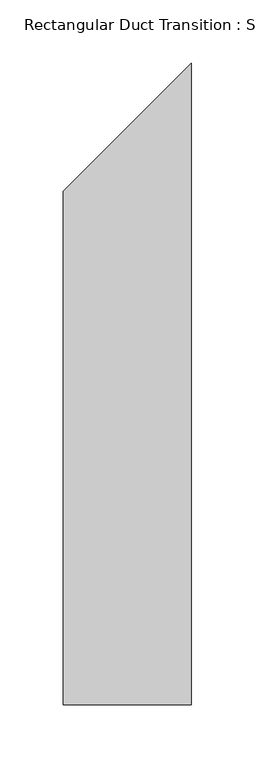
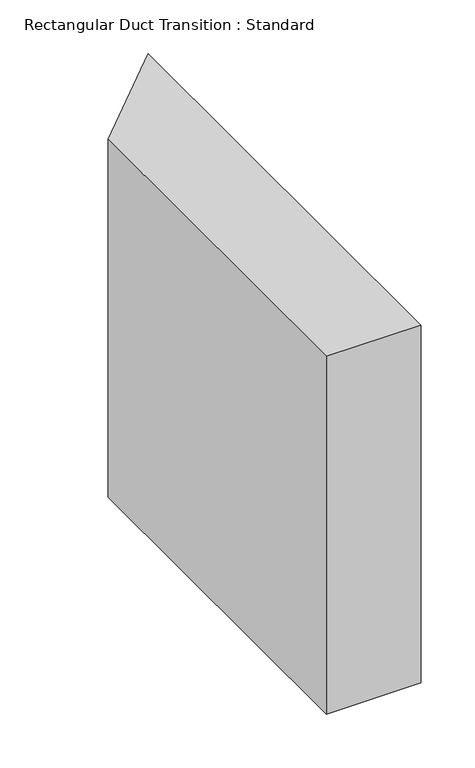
"""IFC4 building model written with IfcOpenShell, lengths in millimetres: duct fitting geometry, Rectangular Duct Transition : Standard."""

from ifc_helpers import new_model, si_unit, frame, origin, place, context, project, spatial, polyline, outline, extrude, source, transform, mapped, element, save


def rectangular_duct_transition_standard_95a42e19(model_context):
    return source(origin(), model_context, "Body", "SweptSolid", [
        extrude(outline(polyline([(0.0, -203.2), (0.0, 203.2), (101.6, 304.8), (101.6, -203.2), (0.0, -203.2)])), frame((0.0, 0.0, -203.2), z_axis=(0.0, 0.0, 1.0), x_axis=(1.0, 0.0, 0.0)), (0.0, 0.0, 1.0), 406.4),
        extrude(outline(polyline([(0.0, -203.2), (0.0, 203.2), (101.6, 304.8), (101.6, -203.2), (0.0, -203.2)])), frame((0.0, 0.0, -203.2), z_axis=(0.0, 0.0, 1.0), x_axis=(1.0, 0.0, 0.0)), (0.0, 0.0, 1.0), 406.4),
        extrude(outline(polyline([(0.0, -203.2), (0.0, 203.2), (101.6, 304.8), (101.6, -203.2), (0.0, -203.2)])), frame((0.0, 0.0, -203.2), z_axis=(0.0, 0.0, 1.0), x_axis=(1.0, 0.0, 0.0)), (0.0, 0.0, 1.0), 406.4),
    ])


if __name__ == "__main__":
    model = new_model("IFC4")
    model_context = context("Model", 3, world=origin())
    ifc_project = project(units=[si_unit("LENGTHUNIT", "METRE", prefix="MILLI")], contexts=[model_context])
    site = spatial("IfcSite", under=ifc_project)
    building = spatial("IfcBuilding", under=site)
    placement = place(None, origin())
    rectangular_duct_transition_standard_shape = rectangular_duct_transition_standard_95a42e19(model_context)
    element("IfcDuctFitting", 1, ObjectType="Rectangular Duct Transition : Standard", at=placement, inside=building, context=model_context, shape_type="MappedRepresentation", body=[
        mapped(rectangular_duct_transition_standard_shape, transform((0.0, 0.0, 0.0), x_axis=(1.0, 0.0, 0.0), y_axis=(0.0, 1.0, 0.0), z_axis=(0.0, 0.0, 1.0))),
    ])
    save(model, "model.ifc")
